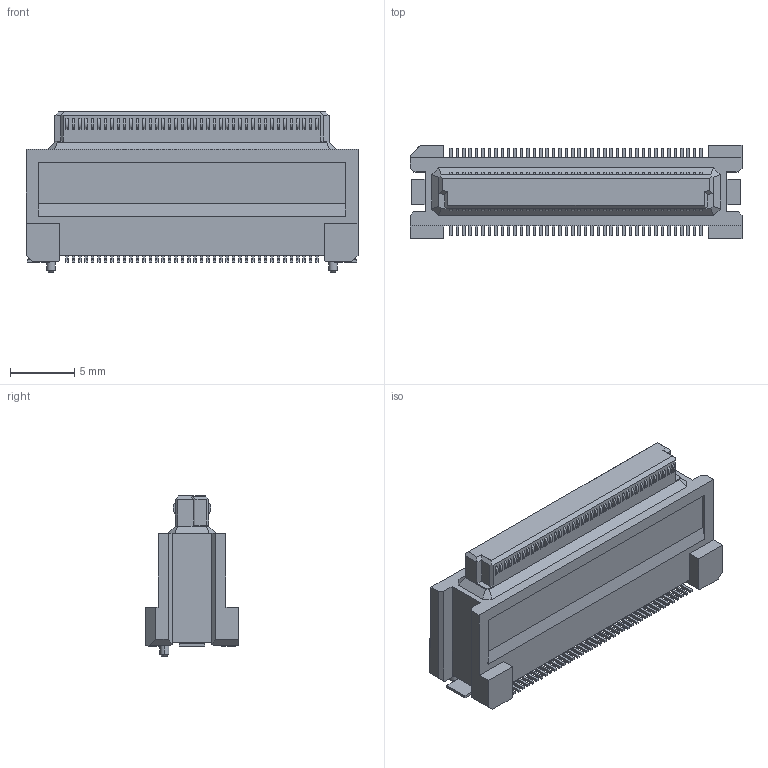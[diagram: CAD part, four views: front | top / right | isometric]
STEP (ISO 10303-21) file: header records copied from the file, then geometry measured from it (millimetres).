
FILE_DESCRIPTION(('Creo Elements/Direct Modeling STEP Export'),'2;1');
FILE_NAME('DY11-080FS-3.stp','2017-11-28T 9:27:10',(''),(''),'Creo Elements/Direct Modeling STEP processor for AP214 (Solid Model)','Creo Elements/Direct Modeling 19.0F 14-Feb-2017 (C) Parametric Technology GmbH','');
FILE_SCHEMA(('AUTOMOTIVE_DESIGN { 1 0 10303 214 1 1 1 1 }'));
Length unit declared in the file: millimetre
Products named in the file (2): DY11-080FS-3
Assembly tree (1 placements, depth 2):
  DY11-080FS-3
    DY11-080FS-3
Bounding box: 25.9 x 7.3 x 12.5 mm (x, y, z)
Volume: 1184.1 mm3; surface area: 1163.1 mm2
Topology: 1 solids, 1 shells, 1200 faces, 3293 edges, 2182 vertices
Faces by surface type: plane 858, cylinder 330, bspline 8, cone 4
Entity records: 38333 total; most frequent: CARTESIAN_POINT 7822, ORIENTED_EDGE 6586, DIRECTION 5995, EDGE_CURVE 3293, VECTOR 2605, LINE 2605, VERTEX_POINT 2182, AXIS2_PLACEMENT_3D 1695
